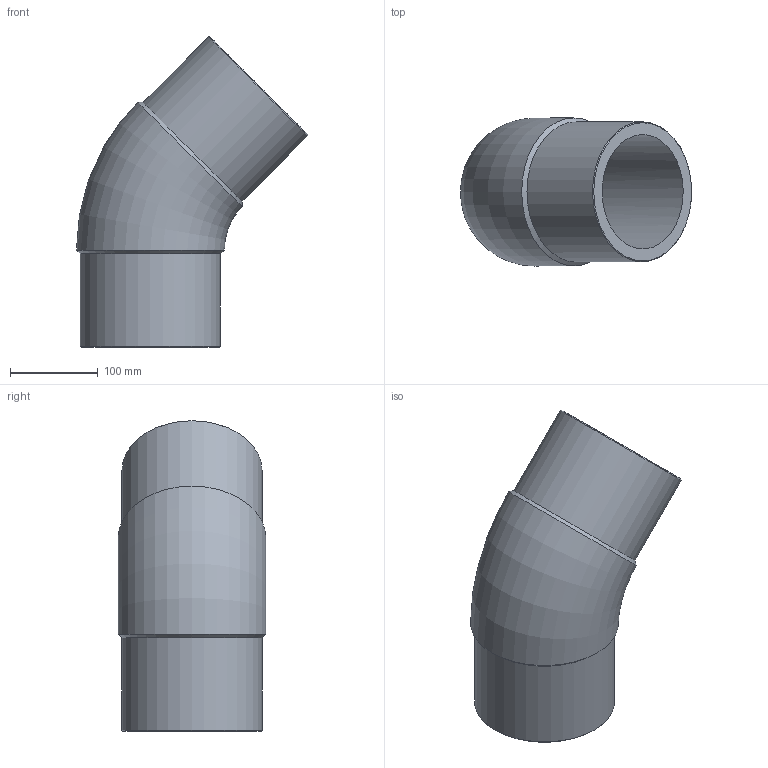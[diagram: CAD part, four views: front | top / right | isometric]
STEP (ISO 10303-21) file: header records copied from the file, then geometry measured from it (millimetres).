
FILE_DESCRIPTION(/* description */ ('Unknown'),/* implementation_level */ '2;1');
FILE_NAME(/* name */ 'G4P160C',/* time_stamp */ '2022-01-19T11:15:31+01:00',/* author */ ('Unknown'),/* organization */ ('Unknown'),/* preprocessor_version */ 'ST-DEVELOPER v18.1',/* originating_system */ 'Solid Edge',/* authorisation */ 'Unknown');
FILE_SCHEMA (('AUTOMOTIVE_DESIGN {1 0 10303 214 3 1 1}'));
Length unit declared in the file: millimetre
Products named in the file (1): G4P160C
Bounding box: 264.11 x 169 x 354.61 mm (x, y, z)
Volume: 2611269.3 mm3; surface area: 332027.1 mm2
Topology: 1 solids, 1 shells, 12 faces, 30 edges, 20 vertices
Faces by surface type: cone 4, cylinder 4, plane 2, torus 2
Full cylindrical faces by diameter (mm): 130.8 x2, 160 x2
Entity records: 328 total; most frequent: CARTESIAN_POINT 62, DIRECTION 52, ORIENTED_EDGE 34, AXIS2_PLACEMENT_3D 26, EDGE_LOOP 23, FACE_BOUND 23, EDGE_CURVE 17, VERTEX_POINT 16
